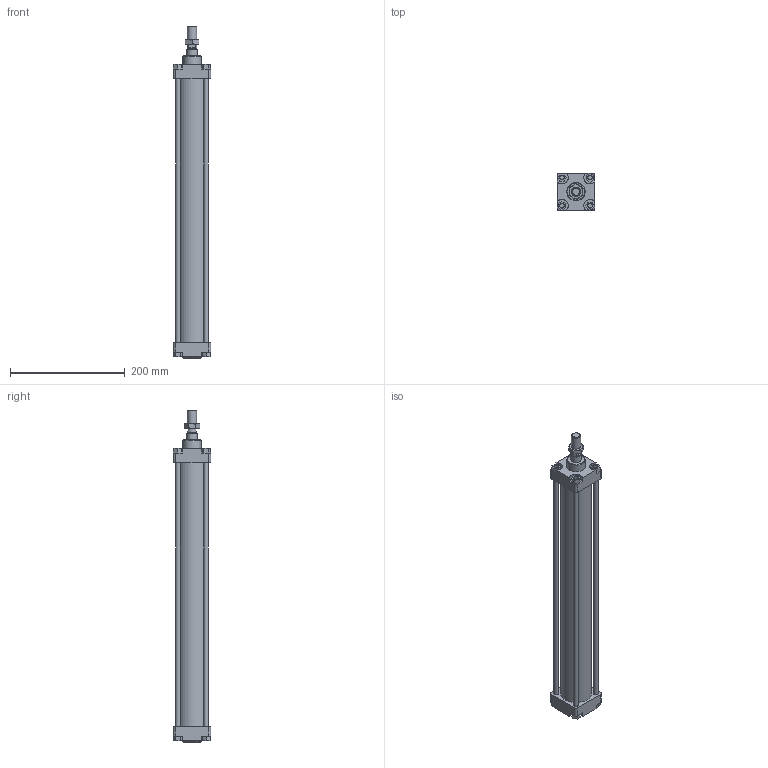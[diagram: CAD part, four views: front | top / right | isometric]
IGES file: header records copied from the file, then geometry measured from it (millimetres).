
Global section: file name: 130#_050_0400_01A; native system: Autodesk Inventor 2014; preprocessor: unknown; author: A. Manieri; date: 20161123.145523; units: millimetre
Bounding box: 65 x 65 x 579 mm (x, y, z)
Volume: 669619.4 mm3; surface area: 283321.9 mm2
Topology: 9 solids, 9 shells, 163 faces, 401 edges, 268 vertices
Faces by surface type: bspline 163
